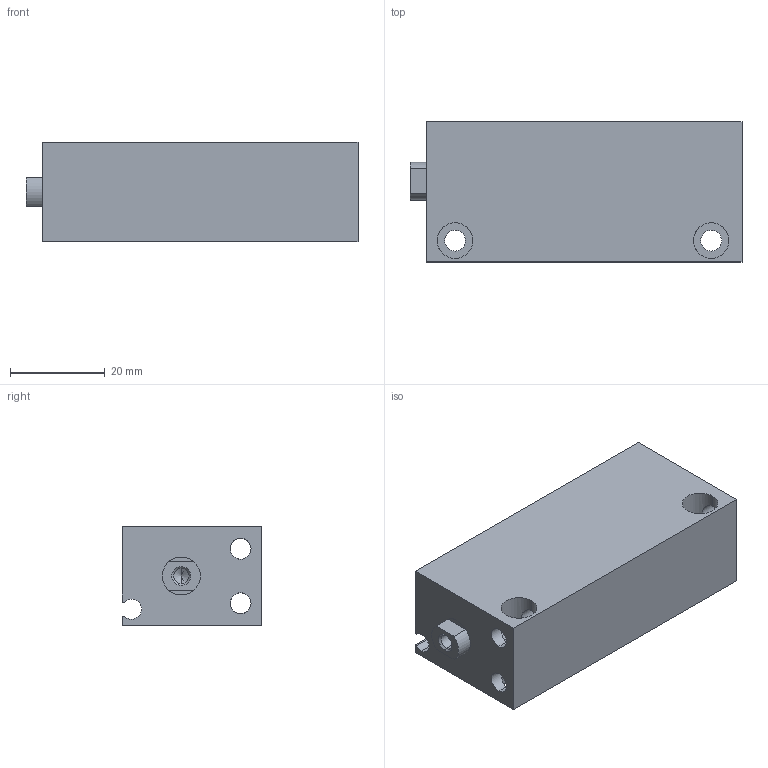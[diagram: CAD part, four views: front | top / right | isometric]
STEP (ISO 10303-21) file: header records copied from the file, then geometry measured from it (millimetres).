
FILE_DESCRIPTION (( 'STEP AP203' ), '1' );
FILE_NAME ('CLJB16-50.STEP', '2020-07-30T19:25:03', ( '' ), ( '' ), 'SwSTEP 2.0', 'SolidWorks 2019', '' );
FILE_SCHEMA (( 'CONFIG_CONTROL_DESIGN' ));
Length unit declared in the file: millimetre
Products named in the file (1): CLJB16-50
Bounding box: 70 x 29.5 x 21 mm (x, y, z)
Volume: 29708.7 mm3; surface area: 15770.5 mm2
Topology: 2 solids, 2 shells, 75 faces, 188 edges, 113 vertices
Faces by surface type: cylinder 41, plane 22, cone 12
Entity records: 3119 total; most frequent: CARTESIAN_POINT 1223, DIRECTION 394, ORIENTED_EDGE 364, EDGE_CURVE 182, AXIS2_PLACEMENT_3D 152, VERTEX_POINT 113, EDGE_LOOP 93, VECTOR 90
